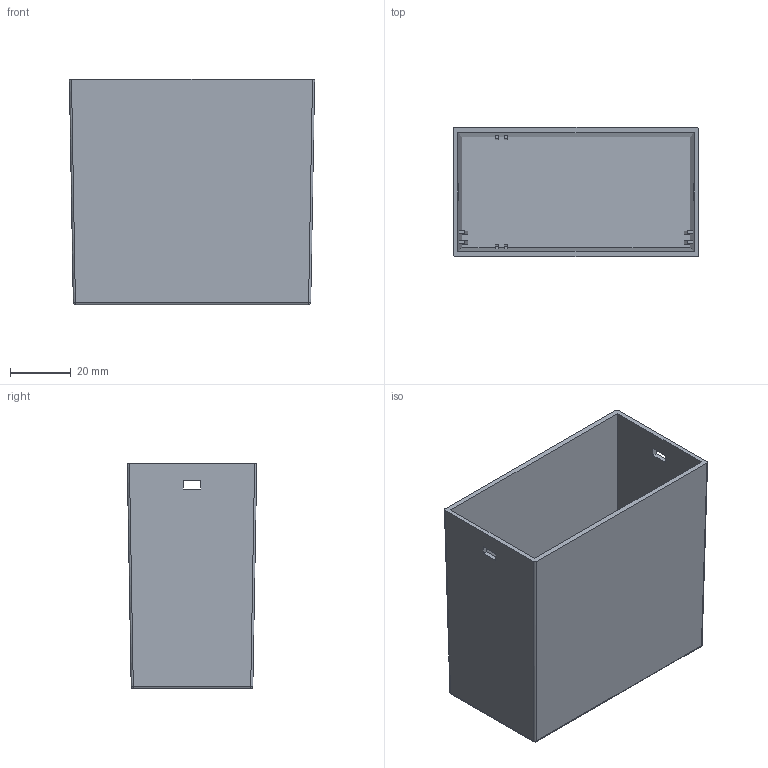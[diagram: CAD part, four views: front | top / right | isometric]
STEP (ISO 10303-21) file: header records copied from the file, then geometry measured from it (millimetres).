
FILE_DESCRIPTION (( 'STEP AP214' ), '1' );
FILE_NAME ('Caixa PP17.STEP', '2016-10-05T13:41:47', ( 'aaa' ), ( '' ), 'SwSTEP 2.0', 'SolidWorks 2013', '' );
FILE_SCHEMA (( 'AUTOMOTIVE_DESIGN' ));
Length unit declared in the file: millimetre
Products named in the file (1): Caixa PP17
Bounding box: 80.5 x 42.5 x 74 mm (x, y, z)
Volume: 36086.8 mm3; surface area: 41447.2 mm2
Topology: 1 solids, 1 shells, 76 faces, 188 edges, 116 vertices
Faces by surface type: plane 64, cylinder 8, sphere 4
Entity records: 2222 total; most frequent: CARTESIAN_POINT 393, ORIENTED_EDGE 376, DIRECTION 350, EDGE_CURVE 188, VECTOR 172, LINE 172, VERTEX_POINT 116, AXIS2_PLACEMENT_3D 89
